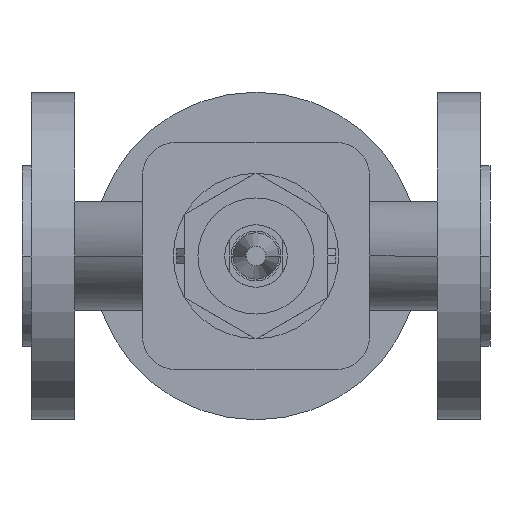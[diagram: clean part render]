
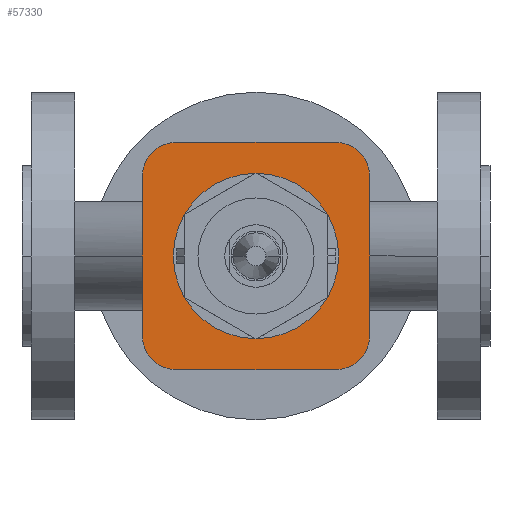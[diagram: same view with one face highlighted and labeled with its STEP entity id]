
A CAD part, front view. The second image highlights one B-rep face of the part: STEP entity #57330.
In plain terms, the highlighted planar face has unit normal (0, -1, 0).
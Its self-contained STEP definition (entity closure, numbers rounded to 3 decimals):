
#9650=CARTESIAN_POINT('',(101.5,-70.,0.));
#9660=VERTEX_POINT('',#9650);
#9820=CARTESIAN_POINT('',(48.5,-70.,0.));
#9830=VERTEX_POINT('',#9820);
#9860=CARTESIAN_POINT('',(75.,-70.,0.));
#9870=DIRECTION('',(0.,-1.,0.));
#9880=DIRECTION('',(-1.,0.,0.));
#9890=AXIS2_PLACEMENT_3D('',#9860,#9870,#9880);
#9900=CIRCLE('',#9890,26.5);
#9910=EDGE_CURVE('',#9660,#9830,#9900,.T.);
#52030=CARTESIAN_POINT('',(111.456,-70.,-25.456));
#52040=VERTEX_POINT('',#52030);
#52070=CARTESIAN_POINT('',(111.456,-70.,12.728));
#52080=DIRECTION('',(0.,0.,1.));
#52090=VECTOR('',#52080,1.);
#52100=LINE('',#52070,#52090);
#52110=CARTESIAN_POINT('',(111.456,-70.,25.456));
#52120=VERTEX_POINT('',#52110);
#52130=EDGE_CURVE('',#52040,#52120,#52100,.T.);
#52480=CARTESIAN_POINT('',(100.456,-70.,-36.456));
#52490=VERTEX_POINT('',#52480);
#52540=CARTESIAN_POINT('',(100.456,-70.,-25.456));
#52550=DIRECTION('',(0.,-1.,0.));
#52560=DIRECTION('',(1.,0.,0.));
#52570=AXIS2_PLACEMENT_3D('',#52540,#52550,#52560);
#52580=CIRCLE('',#52570,11.);
#52590=EDGE_CURVE('',#52490,#52040,#52580,.T.);
#53090=CARTESIAN_POINT('',(100.456,-70.,25.456));
#53100=DIRECTION('',(0.,-1.,0.));
#53110=DIRECTION('',(0.,0.,1.));
#53120=AXIS2_PLACEMENT_3D('',#53090,#53100,#53110);
#53130=CIRCLE('',#53120,11.);
#53140=CARTESIAN_POINT('',(100.456,-70.,36.456));
#53150=VERTEX_POINT('',#53140);
#53160=EDGE_CURVE('',#52120,#53150,#53130,.T.);
#54020=CARTESIAN_POINT('',(49.544,-70.,-36.456));
#54030=VERTEX_POINT('',#54020);
#54060=CARTESIAN_POINT('',(69.353,-70.,-36.456));
#54070=DIRECTION('',(1.,0.,0.));
#54080=VECTOR('',#54070,1.);
#54090=LINE('',#54060,#54080);
#54100=EDGE_CURVE('',#54030,#52490,#54090,.T.);
#54620=CARTESIAN_POINT('',(38.544,-70.,-25.456));
#54630=VERTEX_POINT('',#54620);
#54680=CARTESIAN_POINT('',(49.544,-70.,-25.456));
#54690=DIRECTION('',(0.,-1.,0.));
#54700=DIRECTION('',(0.,0.,-1.));
#54710=AXIS2_PLACEMENT_3D('',#54680,#54690,#54700);
#54720=CIRCLE('',#54710,11.);
#54730=EDGE_CURVE('',#54630,#54030,#54720,.T.);
#55260=CARTESIAN_POINT('',(49.544,-70.,36.456));
#55270=VERTEX_POINT('',#55260);
#55320=CARTESIAN_POINT('',(49.544,-70.,25.456));
#55330=DIRECTION('',(0.,-1.,0.));
#55340=DIRECTION('',(-1.,0.,0.));
#55350=AXIS2_PLACEMENT_3D('',#55320,#55330,#55340);
#55360=CIRCLE('',#55350,11.);
#55370=CARTESIAN_POINT('',(38.544,-70.,25.456));
#55380=VERTEX_POINT('',#55370);
#55390=EDGE_CURVE('',#55270,#55380,#55360,.T.);
#56150=CARTESIAN_POINT('',(38.544,-70.,-12.728));
#56160=DIRECTION('',(0.,0.,-1.));
#56170=VECTOR('',#56160,1.);
#56180=LINE('',#56150,#56170);
#56190=EDGE_CURVE('',#55380,#54630,#56180,.T.);
#56440=CARTESIAN_POINT('',(43.897,-70.,36.456));
#56450=DIRECTION('',(-1.,0.,0.));
#56460=VECTOR('',#56450,1.);
#56470=LINE('',#56440,#56460);
#56480=EDGE_CURVE('',#53150,#55270,#56470,.T.);
#57130=CARTESIAN_POINT('',(38.25,-70.,0.));
#57140=DIRECTION('',(0.,-1.,0.));
#57150=DIRECTION('',(-1.,0.,0.));
#57160=AXIS2_PLACEMENT_3D('',#57130,#57140,#57150);
#57170=PLANE('',#57160);
#57180=ORIENTED_EDGE('',*,*,#56480,.T.);
#57190=ORIENTED_EDGE('',*,*,#53160,.T.);
#57200=ORIENTED_EDGE('',*,*,#52130,.T.);
#57210=ORIENTED_EDGE('',*,*,#52590,.T.);
#57220=ORIENTED_EDGE('',*,*,#54100,.T.);
#57230=ORIENTED_EDGE('',*,*,#54730,.T.);
#57240=ORIENTED_EDGE('',*,*,#56190,.T.);
#57250=ORIENTED_EDGE('',*,*,#55390,.T.);
#57260=EDGE_LOOP('',(#57250,#57240,#57230,#57220,#57210,#57200,#57190,
#57180));
#57270=FACE_OUTER_BOUND('',#57260,.T.);
#57280=EDGE_CURVE('',#9830,#9660,#9900,.T.);
#57290=ORIENTED_EDGE('',*,*,#57280,.F.);
#57300=ORIENTED_EDGE('',*,*,#9910,.F.);
#57310=EDGE_LOOP('',(#57300,#57290));
#57320=FACE_BOUND('',#57310,.T.);
#57330=ADVANCED_FACE('',(#57270,#57320),#57170,.T.);
